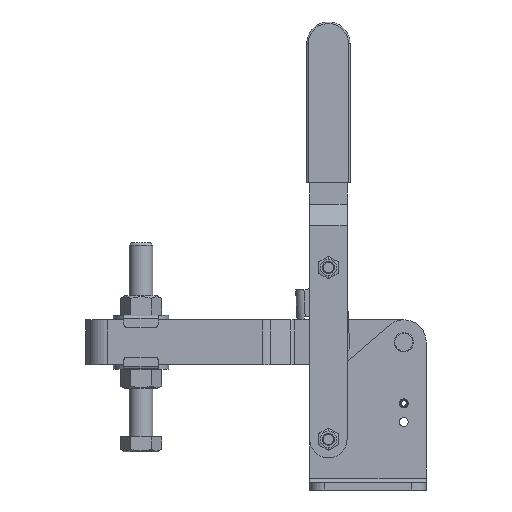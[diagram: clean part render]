
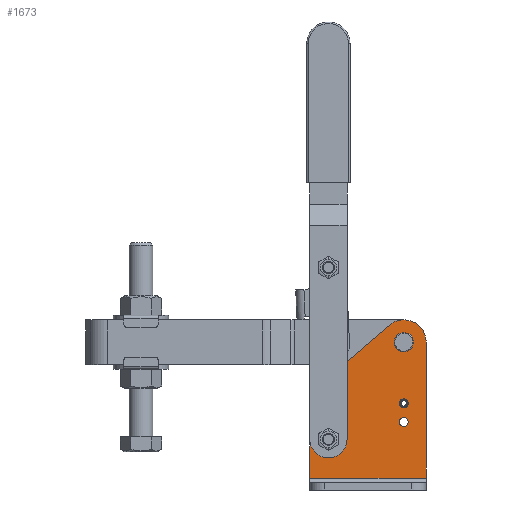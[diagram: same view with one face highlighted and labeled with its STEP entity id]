
A CAD part, front view. The second image highlights one B-rep face of the part: STEP entity #1673.
In plain terms, the highlighted planar face has unit normal (0, -1, 0).
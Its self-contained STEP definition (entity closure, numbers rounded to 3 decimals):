
#933=CARTESIAN_POINT('Cartesian Point',(113.032,-10.,-17.586)) ;
#936=CARTESIAN_POINT('Line Origine',(113.032,-10.,7.914)) ;
#940=CARTESIAN_POINT('Cartesian Point',(113.032,-10.,33.414)) ;
#1019=CARTESIAN_POINT('Cartesian Point',(191.032,-10.,73.414)) ;
#1022=CARTESIAN_POINT('Line Origine',(191.032,-10.,27.914)) ;
#1026=CARTESIAN_POINT('Cartesian Point',(191.032,-10.,-17.586)) ;
#1063=CARTESIAN_POINT('Cartesian Point',(138.032,-10.,60.595)) ;
#1066=CARTESIAN_POINT('Line Origine',(152.151,-10.,72.698)) ;
#1070=CARTESIAN_POINT('Cartesian Point',(166.269,-10.,84.802)) ;
#1103=CARTESIAN_POINT('Cartesian Point',(117.396,-10.,42.904)) ;
#1106=CARTESIAN_POINT('Line Origine',(127.714,-10.,51.749)) ;
#1133=CARTESIAN_POINT('Axis2P3D Location',(125.532,-10.,33.414)) ;
#1217=CARTESIAN_POINT('Line Origine',(196.031,-10.,-17.586)) ;
#1390=CARTESIAN_POINT('Axis2P3D Location',(176.032,-10.,73.414)) ;
#1394=CARTESIAN_POINT('Cartesian Point',(175.993,-10.,88.414)) ;
#1397=CARTESIAN_POINT('Axis2P3D Location',(176.032,-10.,73.414)) ;
#1416=CARTESIAN_POINT('Axis2P3D Location',(176.032,-10.,32.414)) ;
#1420=CARTESIAN_POINT('Cartesian Point',(176.032,-10.,35.414)) ;
#1422=CARTESIAN_POINT('Cartesian Point',(176.032,-10.,29.414)) ;
#1456=CARTESIAN_POINT('Axis2P3D Location',(176.032,-10.,32.414)) ;
#1473=CARTESIAN_POINT('Axis2P3D Location',(176.032,-10.,19.914)) ;
#1477=CARTESIAN_POINT('Cartesian Point',(176.032,-10.,22.914)) ;
#1479=CARTESIAN_POINT('Cartesian Point',(176.032,-10.,16.914)) ;
#1513=CARTESIAN_POINT('Axis2P3D Location',(176.032,-10.,19.914)) ;
#1594=CARTESIAN_POINT('Cartesian Point',(176.032,-10.,78.164)) ;
#1601=CARTESIAN_POINT('Cartesian Point',(176.032,-10.,68.664)) ;
#1604=CARTESIAN_POINT('Axis2P3D Location',(176.032,-10.,73.414)) ;
#1616=CARTESIAN_POINT('Axis2P3D Location',(176.032,-10.,73.414)) ;
#1628=CARTESIAN_POINT('Axis2P3D Location',(176.032,-10.,73.414)) ;
#1655=CARTESIAN_POINT('Axis2P3D Location',(125.532,-10.,8.414)) ;
#1659=CARTESIAN_POINT('Cartesian Point',(125.532,-10.,12.414)) ;
#1661=CARTESIAN_POINT('Cartesian Point',(125.532,-10.,4.414)) ;
#1664=CARTESIAN_POINT('Axis2P3D Location',(125.532,-10.,8.414)) ;
#937=DIRECTION('Vector Direction',(0.,0.,1.)) ;
#1023=DIRECTION('Vector Direction',(0.,0.,1.)) ;
#1067=DIRECTION('Vector Direction',(0.759,0.,0.651)) ;
#1107=DIRECTION('Vector Direction',(0.759,0.,0.651)) ;
#1134=DIRECTION('Axis2P3D Direction',(0.,-1.,0.)) ;
#1218=DIRECTION('Vector Direction',(1.,0.,0.)) ;
#1391=DIRECTION('Axis2P3D Direction',(0.,-1.,0.)) ;
#1398=DIRECTION('Axis2P3D Direction',(0.,-1.,0.)) ;
#1417=DIRECTION('Axis2P3D Direction',(0.,1.,0.)) ;
#1457=DIRECTION('Axis2P3D Direction',(0.,1.,0.)) ;
#1474=DIRECTION('Axis2P3D Direction',(0.,1.,0.)) ;
#1514=DIRECTION('Axis2P3D Direction',(0.,1.,0.)) ;
#1605=DIRECTION('Axis2P3D Direction',(0.,1.,0.)) ;
#1617=DIRECTION('Axis2P3D Direction',(0.,1.,0.)) ;
#1629=DIRECTION('Axis2P3D Direction',(0.,1.,0.)) ;
#1630=DIRECTION('Axis2P3D XDirection',(0.,0.,1.)) ;
#1656=DIRECTION('Axis2P3D Direction',(0.,1.,0.)) ;
#1665=DIRECTION('Axis2P3D Direction',(0.,1.,0.)) ;
#1135=AXIS2_PLACEMENT_3D('Circle Axis2P3D',#1133,#1134,$) ;
#1392=AXIS2_PLACEMENT_3D('Circle Axis2P3D',#1390,#1391,$) ;
#1399=AXIS2_PLACEMENT_3D('Circle Axis2P3D',#1397,#1398,$) ;
#1418=AXIS2_PLACEMENT_3D('Circle Axis2P3D',#1416,#1417,$) ;
#1458=AXIS2_PLACEMENT_3D('Circle Axis2P3D',#1456,#1457,$) ;
#1475=AXIS2_PLACEMENT_3D('Circle Axis2P3D',#1473,#1474,$) ;
#1515=AXIS2_PLACEMENT_3D('Circle Axis2P3D',#1513,#1514,$) ;
#1606=AXIS2_PLACEMENT_3D('Circle Axis2P3D',#1604,#1605,$) ;
#1618=AXIS2_PLACEMENT_3D('Circle Axis2P3D',#1616,#1617,$) ;
#1631=AXIS2_PLACEMENT_3D('Plane Axis2P3D',#1628,#1629,#1630) ;
#1657=AXIS2_PLACEMENT_3D('Circle Axis2P3D',#1655,#1656,$) ;
#1666=AXIS2_PLACEMENT_3D('Circle Axis2P3D',#1664,#1665,$) ;
#1634=ORIENTED_EDGE('Oriented Edge',*,*,#1221,.T.) ;
#1635=ORIENTED_EDGE('Oriented Edge',*,*,#1028,.T.) ;
#1636=ORIENTED_EDGE('Oriented Edge',*,*,#1401,.F.) ;
#1637=ORIENTED_EDGE('Oriented Edge',*,*,#1396,.F.) ;
#1638=ORIENTED_EDGE('Oriented Edge',*,*,#1072,.F.) ;
#1639=ORIENTED_EDGE('Oriented Edge',*,*,#1110,.F.) ;
#1640=ORIENTED_EDGE('Oriented Edge',*,*,#1137,.F.) ;
#1641=ORIENTED_EDGE('Oriented Edge',*,*,#942,.F.) ;
#1644=ORIENTED_EDGE('Oriented Edge',*,*,#1424,.T.) ;
#1645=ORIENTED_EDGE('Oriented Edge',*,*,#1460,.T.) ;
#1648=ORIENTED_EDGE('Oriented Edge',*,*,#1481,.T.) ;
#1649=ORIENTED_EDGE('Oriented Edge',*,*,#1517,.T.) ;
#1652=ORIENTED_EDGE('Oriented Edge',*,*,#1608,.T.) ;
#1653=ORIENTED_EDGE('Oriented Edge',*,*,#1620,.T.) ;
#1670=ORIENTED_EDGE('Oriented Edge',*,*,#1663,.T.) ;
#1671=ORIENTED_EDGE('Oriented Edge',*,*,#1668,.T.) ;
#1646=FACE_BOUND('Face Bound',#1643,.T.) ;
#1650=FACE_BOUND('Face Bound',#1647,.T.) ;
#1654=FACE_BOUND('Face Bound',#1651,.T.) ;
#1672=FACE_BOUND('Face Bound',#1669,.T.) ;
#938=VECTOR('Line Direction',#937,1.) ;
#1024=VECTOR('Line Direction',#1023,1.) ;
#1068=VECTOR('Line Direction',#1067,1.) ;
#1108=VECTOR('Line Direction',#1107,1.) ;
#1219=VECTOR('Line Direction',#1218,1.) ;
#1673=ADVANCED_FACE('',(#1642,#1646,#1650,#1654,#1672),#1632,.F.) ;
#1136=CIRCLE('generated circle',#1135,12.5) ;
#1393=CIRCLE('generated circle',#1392,15.) ;
#1400=CIRCLE('generated circle',#1399,15.) ;
#1419=CIRCLE('generated circle',#1418,3.) ;
#1459=CIRCLE('generated circle',#1458,3.) ;
#1476=CIRCLE('generated circle',#1475,3.) ;
#1516=CIRCLE('generated circle',#1515,3.) ;
#1607=CIRCLE('generated circle',#1606,4.75) ;
#1619=CIRCLE('generated circle',#1618,4.75) ;
#1658=CIRCLE('generated circle',#1657,4.) ;
#1667=CIRCLE('generated circle',#1666,4.) ;
#942=EDGE_CURVE('',#934,#941,#939,.T.) ;
#1028=EDGE_CURVE('',#1027,#1020,#1025,.T.) ;
#1072=EDGE_CURVE('',#1064,#1071,#1069,.T.) ;
#1110=EDGE_CURVE('',#1104,#1064,#1109,.T.) ;
#1137=EDGE_CURVE('',#941,#1104,#1136,.F.) ;
#1221=EDGE_CURVE('',#934,#1027,#1220,.T.) ;
#1396=EDGE_CURVE('',#1071,#1395,#1393,.F.) ;
#1401=EDGE_CURVE('',#1395,#1020,#1400,.F.) ;
#1424=EDGE_CURVE('',#1421,#1423,#1419,.T.) ;
#1460=EDGE_CURVE('',#1423,#1421,#1459,.T.) ;
#1481=EDGE_CURVE('',#1478,#1480,#1476,.T.) ;
#1517=EDGE_CURVE('',#1480,#1478,#1516,.T.) ;
#1608=EDGE_CURVE('',#1595,#1602,#1607,.T.) ;
#1620=EDGE_CURVE('',#1602,#1595,#1619,.T.) ;
#1663=EDGE_CURVE('',#1660,#1662,#1658,.T.) ;
#1668=EDGE_CURVE('',#1662,#1660,#1667,.T.) ;
#1633=EDGE_LOOP('Oriented Loop',(#1634,#1635,#1636,#1637,#1638,#1639,#1640,#1641)) ;
#1643=EDGE_LOOP('Oriented Loop',(#1644,#1645)) ;
#1647=EDGE_LOOP('Oriented Loop',(#1648,#1649)) ;
#1651=EDGE_LOOP('Oriented Loop',(#1652,#1653)) ;
#1669=EDGE_LOOP('Oriented Loop',(#1670,#1671)) ;
#1642=FACE_OUTER_BOUND('Face Bound',#1633,.T.) ;
#939=LINE('Line',#936,#938) ;
#1025=LINE('Line',#1022,#1024) ;
#1069=LINE('Line',#1066,#1068) ;
#1109=LINE('Line',#1106,#1108) ;
#1220=LINE('Line',#1217,#1219) ;
#1632=PLANE('Plane',#1631) ;
#934=VERTEX_POINT('Vertex Point',#933) ;
#941=VERTEX_POINT('Vertex Point',#940) ;
#1020=VERTEX_POINT('Vertex Point',#1019) ;
#1027=VERTEX_POINT('Vertex Point',#1026) ;
#1064=VERTEX_POINT('Vertex Point',#1063) ;
#1071=VERTEX_POINT('Vertex Point',#1070) ;
#1104=VERTEX_POINT('Vertex Point',#1103) ;
#1395=VERTEX_POINT('Vertex Point',#1394) ;
#1421=VERTEX_POINT('Vertex Point',#1420) ;
#1423=VERTEX_POINT('Vertex Point',#1422) ;
#1478=VERTEX_POINT('Vertex Point',#1477) ;
#1480=VERTEX_POINT('Vertex Point',#1479) ;
#1595=VERTEX_POINT('Vertex Point',#1594) ;
#1602=VERTEX_POINT('Vertex Point',#1601) ;
#1660=VERTEX_POINT('Vertex Point',#1659) ;
#1662=VERTEX_POINT('Vertex Point',#1661) ;
